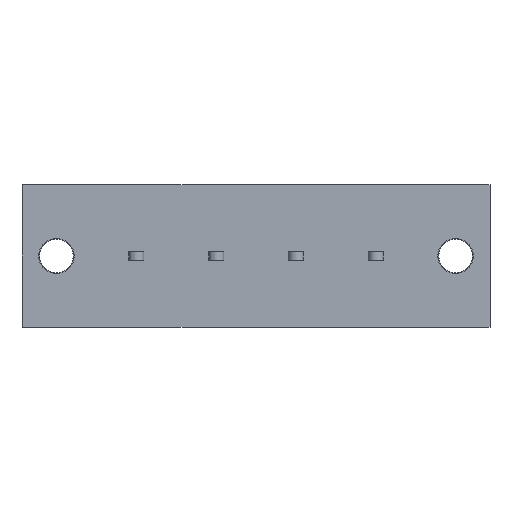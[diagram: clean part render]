
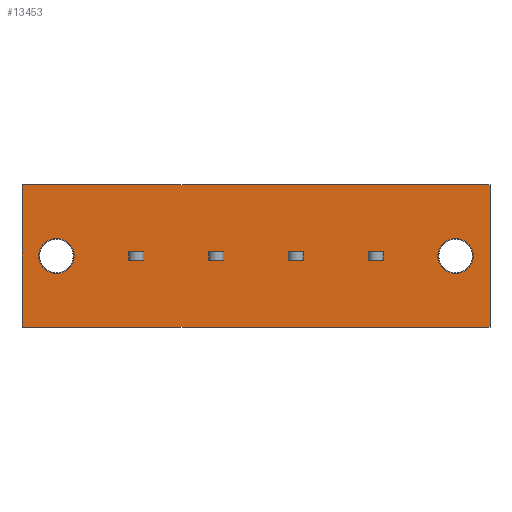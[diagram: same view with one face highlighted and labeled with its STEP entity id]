
A CAD part, front view. The second image highlights one B-rep face of the part: STEP entity #13453.
In plain terms, the highlighted planar face has unit normal (0, -1, 0).
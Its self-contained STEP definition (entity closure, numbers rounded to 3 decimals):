
#631=CIRCLE('',#13903,2.1);
#749=CIRCLE('',#14351,2.1);
#864=VERTEX_POINT('',#17611);
#865=VERTEX_POINT('',#17612);
#868=VERTEX_POINT('',#17620);
#880=VERTEX_POINT('',#17658);
#972=VERTEX_POINT('',#17928);
#1303=VERTEX_POINT('',#19400);
#1304=VERTEX_POINT('',#19402);
#1348=VERTEX_POINT('',#19590);
#1349=VERTEX_POINT('',#19591);
#1352=VERTEX_POINT('',#19599);
#1380=VERTEX_POINT('',#19670);
#1478=VERTEX_POINT('',#20019);
#1479=VERTEX_POINT('',#20020);
#1482=VERTEX_POINT('',#20028);
#1510=VERTEX_POINT('',#20099);
#1603=VERTEX_POINT('',#20420);
#1610=VERTEX_POINT('',#20436);
#1611=VERTEX_POINT('',#20438);
#1612=VERTEX_POINT('',#20439);
#1613=VERTEX_POINT('',#20441);
#1614=VERTEX_POINT('',#20443);
#1615=VERTEX_POINT('',#20446);
#2230=VECTOR('',#14766,1.);
#2233=VECTOR('',#14772,1.);
#2245=VECTOR('',#14808,1.);
#2247=VECTOR('',#14811,1.);
#2738=VECTOR('',#15542,1.);
#2775=VECTOR('',#15690,1.);
#2778=VECTOR('',#15696,1.);
#2804=VECTOR('',#15751,1.);
#2806=VECTOR('',#15754,1.);
#2903=VECTOR('',#16028,1.);
#2906=VECTOR('',#16034,1.);
#2932=VECTOR('',#16089,1.);
#2934=VECTOR('',#16092,1.);
#3020=VECTOR('',#16337,1.);
#3028=VECTOR('',#16348,1.);
#3029=VECTOR('',#16349,1.);
#3030=VECTOR('',#16350,1.);
#3031=VECTOR('',#16351,1.);
#3032=VECTOR('',#16352,1.);
#3033=VECTOR('',#16353,1.);
#3720=LINE('',#17610,#2230);
#3723=LINE('',#17619,#2233);
#3735=LINE('',#17657,#2245);
#3737=LINE('',#17661,#2247);
#4228=LINE('',#19401,#2738);
#4265=LINE('',#19589,#2775);
#4268=LINE('',#19598,#2778);
#4294=LINE('',#19669,#2804);
#4296=LINE('',#19673,#2806);
#4393=LINE('',#20018,#2903);
#4396=LINE('',#20027,#2906);
#4422=LINE('',#20098,#2932);
#4424=LINE('',#20102,#2934);
#4510=LINE('',#20419,#3020);
#4518=LINE('',#20437,#3028);
#4519=LINE('',#20440,#3029);
#4520=LINE('',#20442,#3030);
#4521=LINE('',#20444,#3031);
#4522=LINE('',#20445,#3032);
#4523=LINE('',#20447,#3033);
#5212=EDGE_CURVE('',#864,#865,#3720,.T.);
#5216=EDGE_CURVE('',#865,#868,#3723,.T.);
#5235=EDGE_CURVE('',#880,#864,#3735,.T.);
#5237=EDGE_CURVE('',#868,#880,#3737,.T.);
#5369=EDGE_CURVE('',#972,#972,#631,.T.);
#5863=EDGE_CURVE('',#1303,#1304,#4228,.T.);
#5937=EDGE_CURVE('',#1348,#1349,#4265,.T.);
#5941=EDGE_CURVE('',#1349,#1352,#4268,.T.);
#5976=EDGE_CURVE('',#1380,#1348,#4294,.T.);
#5978=EDGE_CURVE('',#1352,#1380,#4296,.T.);
#6131=EDGE_CURVE('',#1478,#1479,#4393,.T.);
#6135=EDGE_CURVE('',#1479,#1482,#4396,.T.);
#6170=EDGE_CURVE('',#1510,#1478,#4422,.T.);
#6172=EDGE_CURVE('',#1482,#1510,#4424,.T.);
#6311=EDGE_CURVE('',#1603,#1304,#4510,.T.);
#6319=EDGE_CURVE('',#1610,#1610,#749,.T.);
#6320=EDGE_CURVE('',#1611,#1612,#4518,.T.);
#6321=EDGE_CURVE('',#1612,#1613,#4519,.T.);
#6322=EDGE_CURVE('',#1613,#1614,#4520,.T.);
#6323=EDGE_CURVE('',#1614,#1611,#4521,.T.);
#6324=EDGE_CURVE('',#1615,#1303,#4522,.T.);
#6325=EDGE_CURVE('',#1603,#1615,#4523,.T.);
#9399=ORIENTED_EDGE('',*,*,#5212,.T.);
#9400=ORIENTED_EDGE('',*,*,#5216,.T.);
#9401=ORIENTED_EDGE('',*,*,#5237,.T.);
#9402=ORIENTED_EDGE('',*,*,#5235,.T.);
#9403=ORIENTED_EDGE('',*,*,#5369,.T.);
#9404=ORIENTED_EDGE('',*,*,#6319,.T.);
#9405=ORIENTED_EDGE('',*,*,#5937,.T.);
#9406=ORIENTED_EDGE('',*,*,#5941,.T.);
#9407=ORIENTED_EDGE('',*,*,#5978,.T.);
#9408=ORIENTED_EDGE('',*,*,#5976,.T.);
#9409=ORIENTED_EDGE('',*,*,#6320,.T.);
#9410=ORIENTED_EDGE('',*,*,#6321,.T.);
#9411=ORIENTED_EDGE('',*,*,#6322,.T.);
#9412=ORIENTED_EDGE('',*,*,#6323,.T.);
#9413=ORIENTED_EDGE('',*,*,#6131,.T.);
#9414=ORIENTED_EDGE('',*,*,#6135,.T.);
#9415=ORIENTED_EDGE('',*,*,#6172,.T.);
#9416=ORIENTED_EDGE('',*,*,#6170,.T.);
#9417=ORIENTED_EDGE('',*,*,#6311,.T.);
#9418=ORIENTED_EDGE('',*,*,#5863,.F.);
#9419=ORIENTED_EDGE('',*,*,#6324,.F.);
#9420=ORIENTED_EDGE('',*,*,#6325,.F.);
#11765=EDGE_LOOP('',(#9399,#9400,#9401,#9402));
#11766=EDGE_LOOP('',(#9403));
#11767=EDGE_LOOP('',(#9404));
#11768=EDGE_LOOP('',(#9405,#9406,#9407,#9408));
#11769=EDGE_LOOP('',(#9409,#9410,#9411,#9412));
#11770=EDGE_LOOP('',(#9413,#9414,#9415,#9416));
#11771=EDGE_LOOP('',(#9417,#9418,#9419,#9420));
#12633=FACE_BOUND('',#11765,.T.);
#12634=FACE_BOUND('',#11766,.T.);
#12635=FACE_BOUND('',#11767,.T.);
#12636=FACE_BOUND('',#11768,.T.);
#12637=FACE_BOUND('',#11769,.T.);
#12638=FACE_BOUND('',#11770,.T.);
#12639=FACE_BOUND('',#11771,.T.);
#13453=ADVANCED_FACE('',(#12633,#12634,#12635,#12636,#12637,#12638,#12639),
#23065,.T.);
#13903=AXIS2_PLACEMENT_3D('',#17927,#15022,#15023);
#14350=AXIS2_PLACEMENT_3D('',#20434,#16345,$);
#14351=AXIS2_PLACEMENT_3D('',#20435,#16346,#16347);
#14766=DIRECTION('',(1.,0.,0.));
#14772=DIRECTION('',(0.,0.,-1.));
#14808=DIRECTION('',(0.,0.,1.));
#14811=DIRECTION('',(-1.,0.,0.));
#15022=DIRECTION('',(0.,1.,0.));
#15023=DIRECTION('',(-2.1,0.,0.));
#15542=DIRECTION('',(0.,0.,-1.));
#15690=DIRECTION('',(1.,0.,0.));
#15696=DIRECTION('',(0.,0.,-1.));
#15751=DIRECTION('',(0.,0.,1.));
#15754=DIRECTION('',(-1.,0.,0.));
#16028=DIRECTION('',(1.,0.,0.));
#16034=DIRECTION('',(0.,0.,-1.));
#16089=DIRECTION('',(0.,0.,1.));
#16092=DIRECTION('',(-1.,0.,0.));
#16337=DIRECTION('',(1.,0.,0.));
#16345=DIRECTION('',(0.,-1.,0.));
#16346=DIRECTION('',(0.,1.,0.));
#16347=DIRECTION('',(2.1,0.,0.));
#16348=DIRECTION('',(1.,0.,0.));
#16349=DIRECTION('',(0.,0.,-1.));
#16350=DIRECTION('',(-1.,0.,0.));
#16351=DIRECTION('',(0.,0.,1.));
#16352=DIRECTION('',(1.,0.,0.));
#16353=DIRECTION('',(0.,0.,1.));
#17610=CARTESIAN_POINT('',(7.475,0.,0.5));
#17611=CARTESIAN_POINT('',(4.55,0.,0.5));
#17612=CARTESIAN_POINT('',(6.35,0.,0.5));
#17619=CARTESIAN_POINT('',(6.35,0.,1.75));
#17620=CARTESIAN_POINT('',(6.35,0.,-0.5));
#17657=CARTESIAN_POINT('',(4.55,0.,1.75));
#17658=CARTESIAN_POINT('',(4.55,0.,-0.5));
#17661=CARTESIAN_POINT('',(7.475,0.,-0.5));
#17927=CARTESIAN_POINT('',(43.45,0.,0.));
#17928=CARTESIAN_POINT('',(45.55,0.,0.));
#19400=CARTESIAN_POINT('',(47.55,0.,8.5));
#19401=CARTESIAN_POINT('',(47.55,0.,8.5));
#19402=CARTESIAN_POINT('',(47.55,0.,-8.5));
#19589=CARTESIAN_POINT('',(21.725,0.,0.5));
#19590=CARTESIAN_POINT('',(33.05,0.,0.5));
#19591=CARTESIAN_POINT('',(34.85,0.,0.5));
#19598=CARTESIAN_POINT('',(34.85,0.,1.75));
#19599=CARTESIAN_POINT('',(34.85,0.,-0.5));
#19669=CARTESIAN_POINT('',(33.05,0.,1.75));
#19670=CARTESIAN_POINT('',(33.05,0.,-0.5));
#19673=CARTESIAN_POINT('',(21.725,0.,-0.5));
#20018=CARTESIAN_POINT('',(12.225,0.,0.5));
#20019=CARTESIAN_POINT('',(14.05,0.,0.5));
#20020=CARTESIAN_POINT('',(15.85,0.,0.5));
#20027=CARTESIAN_POINT('',(15.85,0.,1.75));
#20028=CARTESIAN_POINT('',(15.85,0.,-0.5));
#20098=CARTESIAN_POINT('',(14.05,0.,1.75));
#20099=CARTESIAN_POINT('',(14.05,0.,-0.5));
#20102=CARTESIAN_POINT('',(12.225,0.,-0.5));
#20419=CARTESIAN_POINT('',(-8.15,0.,-8.5));
#20420=CARTESIAN_POINT('',(-8.15,0.,-8.5));
#20434=CARTESIAN_POINT('',(9.5,0.,0.));
#20435=CARTESIAN_POINT('',(-4.05,0.,0.));
#20436=CARTESIAN_POINT('',(-6.15,0.,0.));
#20437=CARTESIAN_POINT('',(16.975,0.,0.5));
#20438=CARTESIAN_POINT('',(23.55,0.,0.5));
#20439=CARTESIAN_POINT('',(25.35,0.,0.5));
#20440=CARTESIAN_POINT('',(25.35,0.,1.75));
#20441=CARTESIAN_POINT('',(25.35,0.,-0.5));
#20442=CARTESIAN_POINT('',(16.975,0.,-0.5));
#20443=CARTESIAN_POINT('',(23.55,0.,-0.5));
#20444=CARTESIAN_POINT('',(23.55,0.,1.75));
#20445=CARTESIAN_POINT('',(-8.15,0.,8.5));
#20446=CARTESIAN_POINT('',(-8.15,0.,8.5));
#20447=CARTESIAN_POINT('',(-8.15,0.,-8.5));
#23065=PLANE('',#14350);
